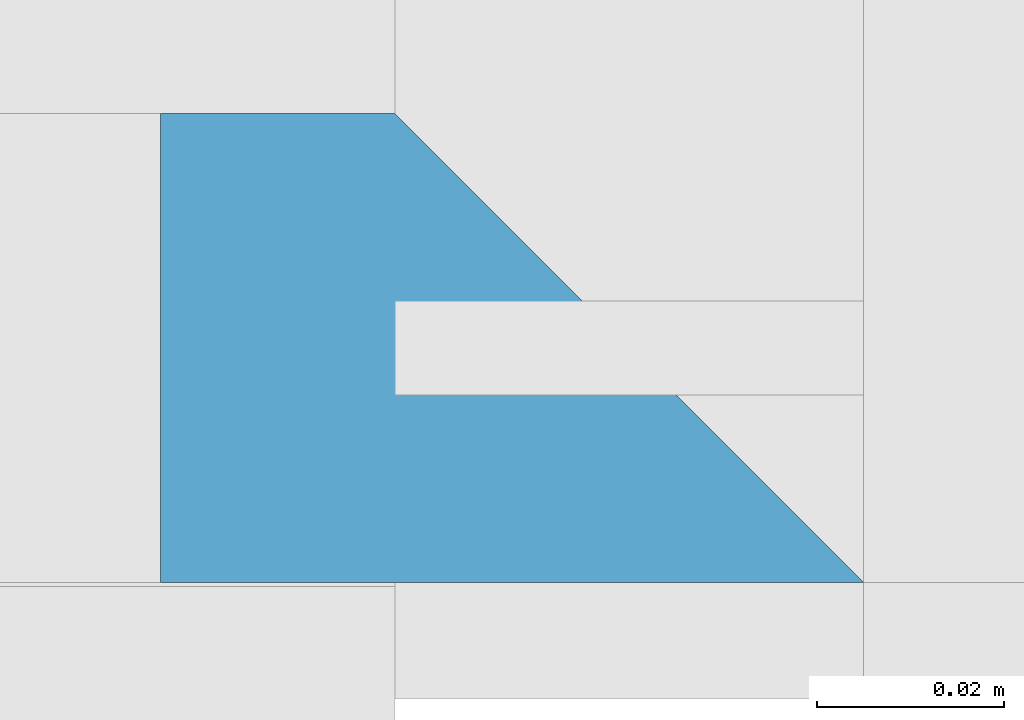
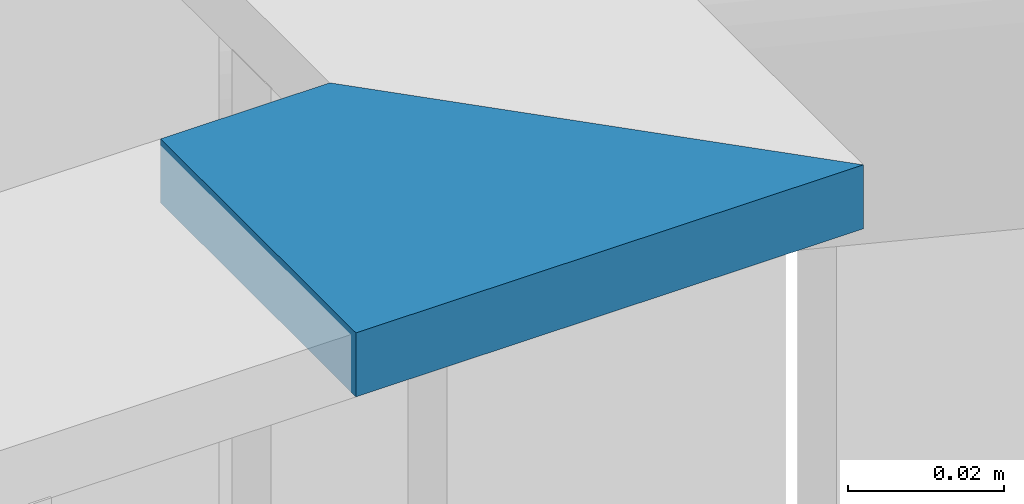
# One storey, part 19 of 418: 1 member, 1 element without a shape of its own.
"""IFC2X3 building model written with IfcOpenShell, lengths in millimetres."""

from ifc_helpers import new_model, entity, si_unit, converted_unit, derived_unit, money_unit, direction, frame, origin_with_axes, place, context, subcontext, project, spatial, faceted_brep, source, transform, mapped, material, type_object, element, aggregate, save


model = new_model("IFC2X3")

# Units and contexts
model_context = context("Model", 3, precision=0.01, world=origin_with_axes(), true_north=direction((0.0, 1.0)))
body_context = subcontext(model_context, "Body", "Model", "MODEL_VIEW")
ifc_project = project(units=[si_unit("LENGTHUNIT", "METRE", prefix="MILLI"), si_unit("AREAUNIT", "SQUARE_METRE"), si_unit("VOLUMEUNIT", "CUBIC_METRE"), converted_unit("PLANEANGLEUNIT", "DEGREE", entity("IfcPlaneAngleMeasure", 0.0174532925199), si_unit("PLANEANGLEUNIT", "RADIAN"), dimensions=[0, 0, 0, 0, 0, 0, 0]), si_unit("SOLIDANGLEUNIT", "STERADIAN"), money_unit("EUR"), converted_unit("TIMEUNIT", "Year", entity("IfcTimeMeasure", 31556926.0), si_unit("TIMEUNIT", "SECOND"), dimensions=[0, 0, 1, 0, 0, 0, 0]), si_unit("MASSUNIT", "GRAM", prefix="KILO"), si_unit("THERMODYNAMICTEMPERATUREUNIT", "DEGREE_CELSIUS"), si_unit("LUMINOUSINTENSITYUNIT", "LUMEN"), si_unit("ENERGYUNIT", "JOULE", prefix="MEGA"), derived_unit("THERMALCONDUCTANCEUNIT", [(si_unit("POWERUNIT", "WATT"), 1), (si_unit("LENGTHUNIT", "METRE"), -1), (si_unit("THERMODYNAMICTEMPERATUREUNIT", "KELVIN"), -1)]), derived_unit("SPECIFICHEATCAPACITYUNIT", [(si_unit("ENERGYUNIT", "JOULE"), 1), (si_unit("MASSUNIT", "GRAM", prefix="KILO"), -1), (si_unit("THERMODYNAMICTEMPERATUREUNIT", "KELVIN"), -1)]), derived_unit("MASSDENSITYUNIT", [(si_unit("MASSUNIT", "GRAM", prefix="KILO"), 1), (si_unit("VOLUMEUNIT", "CUBIC_METRE"), -1)])], contexts=[model_context])

# Site, building, storey
site_placement = place(None, origin_with_axes())
site = spatial("IfcSite", under=ifc_project, at=site_placement, Name="Paldiski mnt 245/1, Tallinn, Harjumaa", CompositionType="COMPLEX")
building_placement = place(site_placement, origin_with_axes())
building = spatial("IfcBuilding", under=site, at=building_placement, Name="RKAS Hoone üldnimetus (kasutust iseloomustav) -> IFC Project Manager -> SOLIBRI", CompositionType="ELEMENT")
storey_placement = place(building_placement, origin_with_axes())
storey = spatial("IfcBuildingStorey", under=building, at=storey_placement, Name="Esimene korrus", CompositionType="ELEMENT", Elevation=0.0)

# Railing, member
railing_type = type_object("IfcRailingType", Name="Railing Type", PredefinedType="NOTDEFINED")
railing_placement = place(storey_placement, frame((-15438.0000282, 781.88210964, -670.434782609), z_axis=(0.0, 0.0, 1.0), x_axis=(-0.773149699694, -0.634223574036, 0.0)))
railing = element("IfcRailing", 1, at=railing_placement, inside=storey, type_object=railing_type, Name="Trepipiire", PredefinedType="NOTDEFINED")
ifc_material = material(Name="RAL7016")
member_type = type_object("IfcMemberType", Name="IfcMember", PredefinedType="USERDEFINED")
shared_shape = source(origin_with_axes(), body_context, "Body", "Brep", [
    faceted_brep([(50.0, -25.0, 1500.0), (50.0, 25.0, 1500.0), (-25.0, 25.0, 1500.0), (25.0, -25.0, 1500.0), (50.0, 25.0, 1490.0), (50.0, -25.0, 1490.0), (-25.0, 25.0, 1490.0), (25.0, -25.0, 1490.0)], [[[0, 1, 2, 3]], [[4, 1, 0, 5]], [[1, 4, 6, 2]], [[2, 6, 7, 3]], [[5, 0, 3, 7]], [[4, 5, 7, 6]]]),
])
member_placement = place(railing_placement, frame((0.0, 0.0, 0.0), z_axis=(0.0, 0.0, 1.0), x_axis=(-0.773149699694, 0.634223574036, 0.0)))
member = element("IfcMember", 2, at=member_placement, type_object=member_type, material=ifc_material, ObjectType="Rail", context=body_context, shape_type="MappedRepresentation", body=[
    mapped(shared_shape, transform((-25.0000000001, -5105.0, 3650.43478261), x_axis=(-1.0, 0.0, 0.0), y_axis=(0.0, -1.0, 0.0), z_axis=(0.0, 0.0, 1.0))),
])
aggregate(railing, [member])

save(model, "model.ifc")
